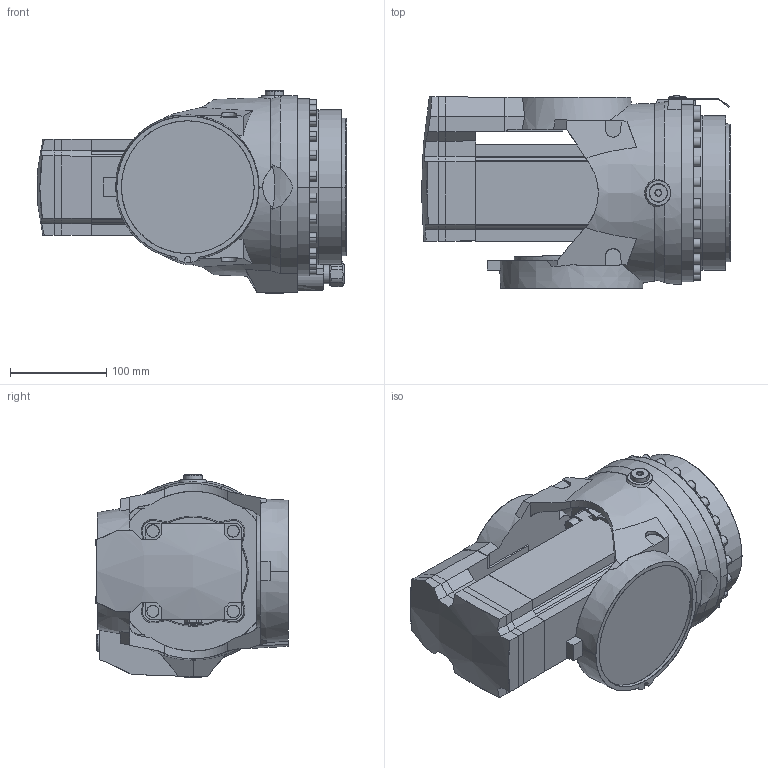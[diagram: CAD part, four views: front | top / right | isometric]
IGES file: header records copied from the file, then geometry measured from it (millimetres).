
Start section: SolidWorks IGES file using analytic representation for surfaces
Global section: file name: C:\DATA\SAP_DOC\LW\IRB 6720\IRB6720-LID-MH_215kg-265_OC_01_SW_J\export\IRB6720-LID-MH_215kg-265_OC_01_IGES_J\IRB6720-LID_215kg-265_OC_01_LINK05_CAD.igs; native system: SolidWorks 2024; preprocessor: SolidWorks 2024; author: SEJOVAS3; date: 260526.094407; units: millimetre
Bounding box: 321.19 x 200.3 x 210 mm (x, y, z)
Surface area: 374761.4 mm2 (no closed solid volume)
Topology: 0 solids, 0 shells, 637 faces, 9852 edges, 9852 vertices
Faces by surface type: bspline 402, revolution 235
